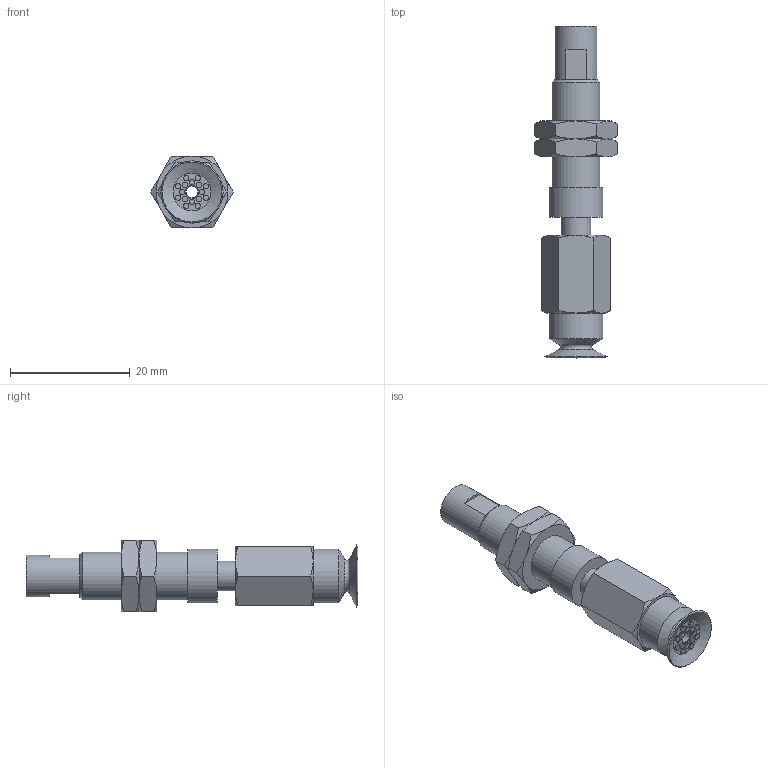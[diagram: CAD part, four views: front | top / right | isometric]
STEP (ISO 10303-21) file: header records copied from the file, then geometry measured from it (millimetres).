
FILE_DESCRIPTION(('STEP AP203'),'1');
FILE_NAME('.stp','2025-08-26T08:28:57',(' '),(' '),'Spatial InterOp 3D',' ',' ');
FILE_SCHEMA(('CONFIG_CONTROL_DESIGN'));
Length unit declared in the file: millimetre
Products named in the file (6): BNABPATS-10A-3-※; ADAPTER; NAPATS-10A-3--M; NAPATS-10A-3--F; Nut-10A-S; BPAG-10A-※_3D
Assembly tree (6 placements, depth 2):
  BNABPATS-10A-3-※
    ADAPTER
    NAPATS-10A-3--M
    NAPATS-10A-3--F
    Nut-10A-S  x2
    BPAG-10A-※_3D
Bounding box: 13.86 x 55.5 x 12 mm (x, y, z)
Volume: 3379.2 mm3; surface area: 3948.8 mm2
Topology: 6 solids, 6 shells, 145 faces, 282 edges, 172 vertices
Faces by surface type: plane 57, cone 46, cylinder 32, torus 10
Full cylindrical faces by diameter (mm): 0.9 x16, 2 x3, 4 x2, 4.134 x1, 5 x2, 6 x2, 7 x1, 7.188 x2, 8 x1, 9 x2
Entity records: 3284 total; most frequent: CARTESIAN_POINT 731, DIRECTION 494, ORIENTED_EDGE 354, AXIS2_PLACEMENT_3D 236, EDGE_LOOP 204, EDGE_CURVE 177, FACE_OUTER_BOUND 163, VERTEX_POINT 137
